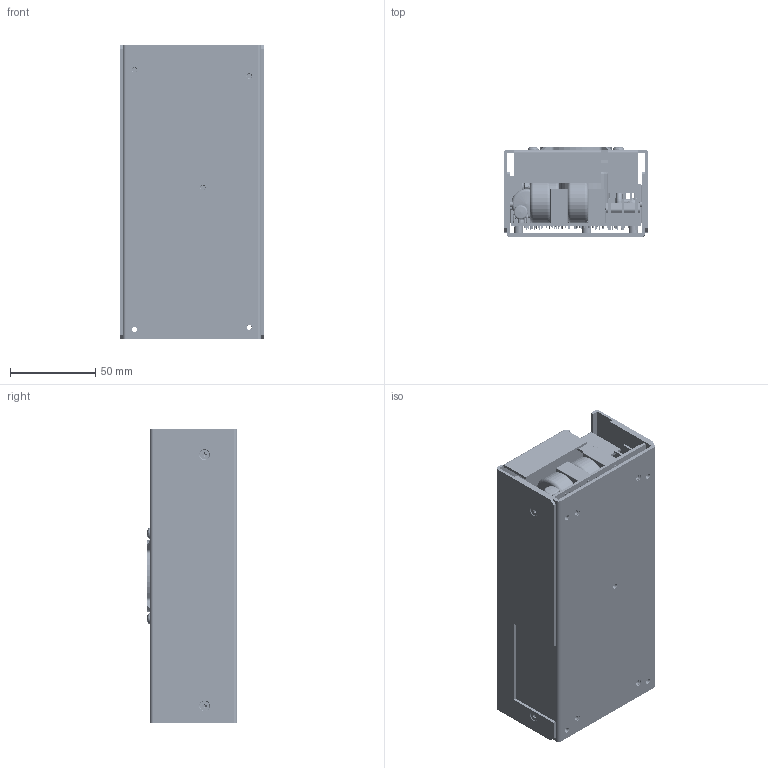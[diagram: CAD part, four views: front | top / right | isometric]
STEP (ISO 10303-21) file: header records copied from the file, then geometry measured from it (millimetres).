
FILE_DESCRIPTION (( 'STEP AP214' ), '1' );
FILE_NAME ('MFA350-TF-12V-24V-48V.STEP', '2010-06-22T22:50:06', ( 'ALL' ), ( 'XP Power' ), 'SwSTEP 2.0', 'SolidWorks 2010', '' );
FILE_SCHEMA (( 'AUTOMOTIVE_DESIGN' ));
Length unit declared in the file: inch
Products named in the file (54): CAP FILM_25X10X20MM_23LS; DIP8_1; IND-TOR_12.5 ODX5mm; POT_TOP-ADJ_01; Capacitor Elec_08mm D_16mm H; CON MLX  .100 2P; 10005393A0 (Transformer MFA350); DIODE-DO-201AD-01; Capacitor Elec_06mm D_13mm H; CON JST_S10B-PHDSS-B_Vertical; Mov_0.600 D_0.300" C; Capacitor Disc_0.300 D_0.300" C; CAP FILM-OVL_0.3X0.6X1.2_1.3LS; CAP-Y_14X05X09MM_15LS-1; Toriod_ax_450od_200id_250h_a; Toroid_mount_hz_Loadstone_TM450-6_1; RES-5W_.3DX.95LG_1.2LS; Capacitor Elec_13mm D_26mm; IND-TOR_25 ODX15mm; Xfmr_curr_sen_pc_hz_01; Xxmr_bias_900x900x660_14p1; Bridge Rectifier_KBU8G_01; FUSE-MINI-RAD; IND-TOR_25 ODX12mm; Label 1.50 X 0.75(10001742); SCREW-PFH(90)_M3.0x05; Label 1.00 X 2.00; PIN-FAN-HOLDER; FAN 60mmX10mmH_FAN 60X15MM; SCREW-PFH(90)_M3.0x16; SCREW-PFH(90)_M3.5x13; SCREW-PFH(90)_M3.5x08; 10007479A0 (Cover Top Fan mfa350); 10007471A0 (Assy Cover Top Fan); Nut_Keps_4-40_conical_01; Retainer_Clamp_TO220_2X_.650 S_01; CAP-MLC-01; SPARK_GAP_600LS_1; Res-1W_.5Ls; 10005055A0 Chassis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
Assembly tree (100 placements, depth 4):
  MFA350-TF-12V-24V-48V
    Assy_Pcb_Main_MFA350 (1000505203)
      IND-TOR_25 ODX15mm  x2
      Xfmr_curr_sen_pc_hz_01  x2
        Toriod_ax_450od_200id_250h_a
        Toroid_mount_hz_Loadstone_TM450-6_1
      Capacitor Disc_0.300 D_0.300" C  x8
      CAP FILM-OVL_0.3X0.6X1.2_1.3LS
      ThermalClad_2X_TO-262_01  x2
        ThermalClad-2X_TO220_01
        TO-263_3P-1
      CON JST_S10B-PHDSS-B_Vertical
      CON MLX  .100 2P
      IND-TOR_25 ODX12mm  x2
      Res-1W_.5Ls
      Mov_0.600 D_0.300" C  x3
      CAP FILM_25X10X20MM_23LS  x2
      SPARK_GAP_600LS_1
      TO-220_3P-WTUBE-2  x5
      CON MLX  .156 10P
      CAP-MLC-01  x3
      POT_TOP-ADJ_01
      Capacitor Elec_13mm D_26mm  x3
      CON MLX  .156 5P
      DIP8_1
      Capacitor Elec_06mm D_13mm H  x3
      CAP-Y_14X05X09MM_15LS-1  x2
      IND-TOR_12.5 ODX5mm
      Bridge Rectifier_KBU8G_01
      Capacitor Elec_35mm D_30mm H
      1000505203 (MFA350 Pcb_Main)
      Capacitor Elec_08mm D_16mm H  x2
      DIODE-DO-201AD-01
      10005393A0 (Transformer MFA350)
      RES-5W_.3DX.95LG_1.2LS
      Xxmr_bias_900x900x660_14p1
      FUSE-MINI-RAD
    Label 1.50 X 0.75(10001742)
    Retainer_Clamp_TO220_2X_.650 S_01
    Chassis Assy 10005055A0
      Pem_Standoff_SO_series_01_M3 x 7  x5
      Pem_Nut_Flush_Metric_F-M3-1  x8
      10005055A0 Chassis
    SCREW-PFH(90)_M3.0x16
    SCREW-PFH(90)_M3.0x05  x4
    SCREW-PFH(90)_M3.5x13  x3
    Nut_Keps_4-40_conical_01
    Retainer_Clamp_TO220_3X_.650 S_01
    10007471A0 (Assy Cover Top Fan)
      PIN-FAN-HOLDER  x4
      10007479A0 (Cover Top Fan mfa350)
      FAN 60mmX10mmH_FAN 60X15MM
      Label 1.00 X 2.00
    SCREW-PFH(90)_M3.5x08  x2
Bounding box: 84.61 x 52.81 x 172.72 mm (x, y, z)
Volume: 257813.6 mm3; surface area: 231029.8 mm2
Topology: 99 solids, 130 shells, 4354 faces, 10354 edges, 6560 vertices
Faces by surface type: plane 2265, cylinder 1420, torus 314, cone 264, bspline 83, sphere 8
Entity records: 109787 total; most frequent: CARTESIAN_POINT 19482, DIRECTION 15169, ORIENTED_EDGE 13812, EDGE_CURVE 6906, AXIS2_PLACEMENT_3D 5528, VERTEX_POINT 4417, VECTOR 4113, LINE 4113
